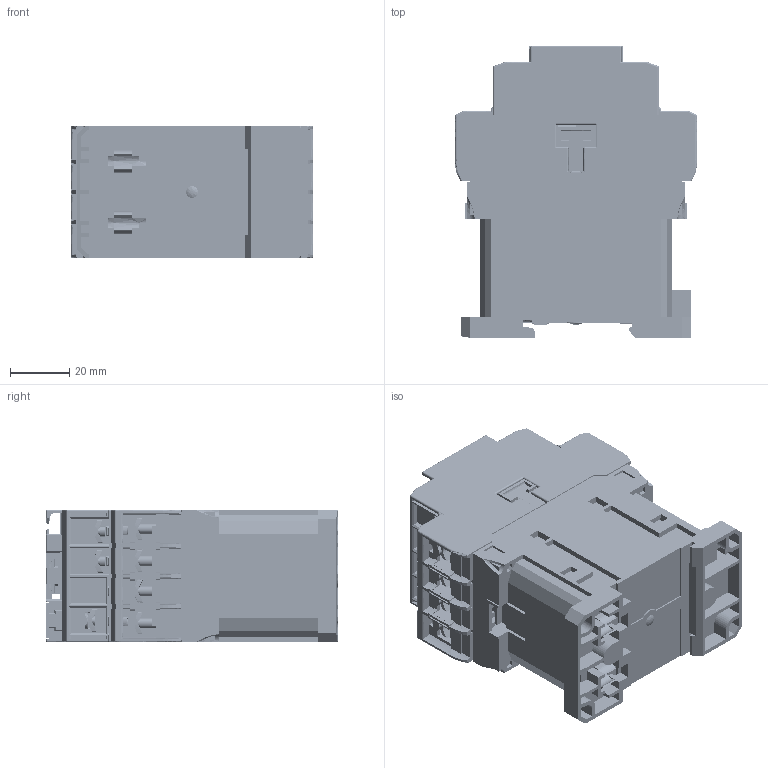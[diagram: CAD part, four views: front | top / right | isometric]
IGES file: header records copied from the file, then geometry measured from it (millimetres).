
Start section: SolidWorks IGES file using analytic representation for surfaces
Global section: file name: \\Brjgs100\dfsweg\GROUPS\BR_SC_JGS_WA_TECNICO\ENG\Usuarios\Rodrigob\conversão\contatores\Produto\CWB9...18 4P DC\CWB9...18 4P DC.IGS; native system: SolidWorks 2018; preprocessor: SolidWorks 2018; author: rodrigob; date: 201127.084605; units: millimetre
Bounding box: 81.8 x 98.95 x 44.8 mm (x, y, z)
Surface area: 83579.5 mm2 (no closed solid volume)
Topology: 0 solids, 0 shells, 5700 faces, 42984 edges, 42802 vertices
Faces by surface type: bspline 3966, revolution 1734
